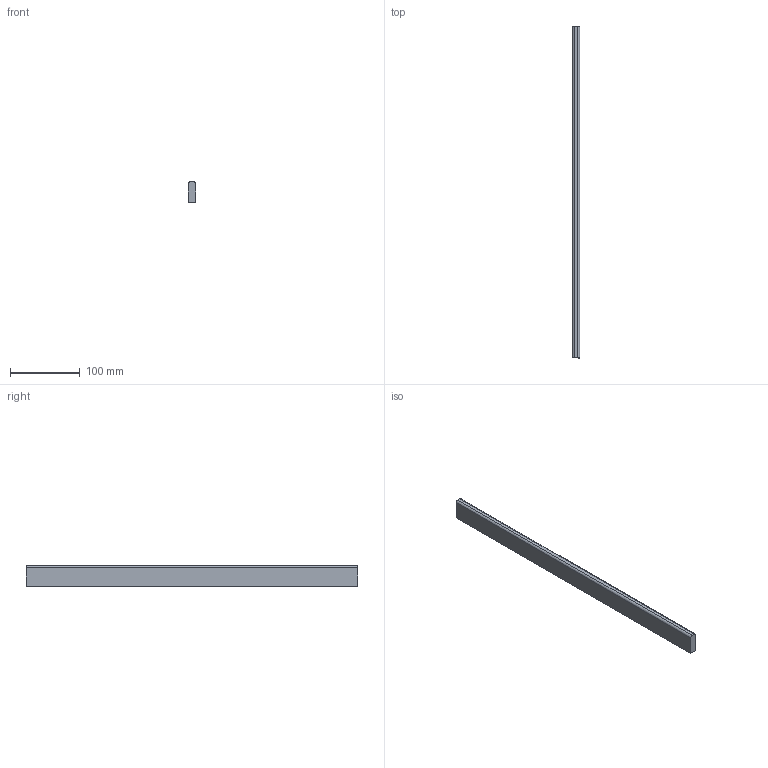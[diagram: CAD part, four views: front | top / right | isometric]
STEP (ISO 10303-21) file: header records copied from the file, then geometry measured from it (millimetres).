
FILE_DESCRIPTION (( 'STEP AP214' ), '1' );
FILE_NAME ('_Seitenreling_SP60701200_RL476.step', '2010-09-06T14:51:38', ( 'grass' ), ( '' ), 'SwSTEP 2.0', 'SolidWorks 2010', '' );
FILE_SCHEMA (( 'AUTOMOTIVE_DESIGN' ));
Length unit declared in the file: millimetre
Products named in the file (1): _Seitenreling_SP60701200_RL476
Bounding box: 10.5 x 476 x 30 mm (x, y, z)
Volume: 148101.3 mm3; surface area: 37952.5 mm2
Topology: 1 solids, 1 shells, 8 faces, 18 edges, 12 vertices
Faces by surface type: plane 6, cylinder 2
Entity records: 260 total; most frequent: DIRECTION 40, CARTESIAN_POINT 39, ORIENTED_EDGE 36, EDGE_CURVE 18, VECTOR 14, LINE 14, AXIS2_PLACEMENT_3D 13, VERTEX_POINT 12
